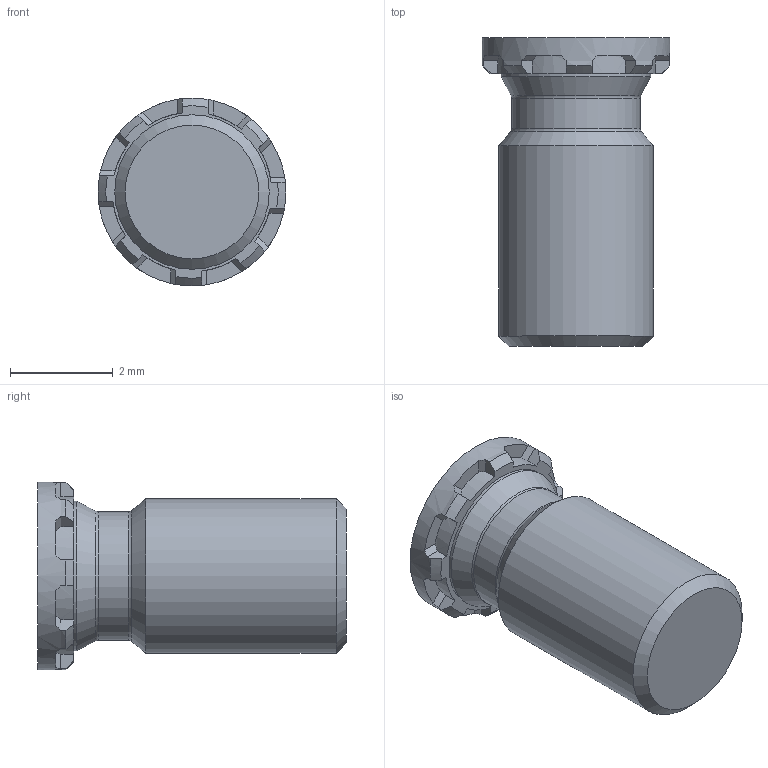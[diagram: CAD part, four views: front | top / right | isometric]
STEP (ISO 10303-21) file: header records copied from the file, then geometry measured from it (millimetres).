
FILE_DESCRIPTION(/* description */ (''),/* implementation_level */ '2;1');
FILE_NAME(/* name */ 'C:\Users\keval.kumar\Desktop\Fastit\Clinch Screw- Reduced FH Range\M3\Clinch Screw-Reduced FH Range_M3x6.stp',/* time_stamp */ '2024-03-12T12:54:33+05:00',/* author */ ('keval.kumar'),/* organization */ (''),/* preprocessor_version */ 'ST-DEVELOPER v18.1',/* originating_system */ 'Autodesk Inventor 2022',/* authorisation */ '');
FILE_SCHEMA (('AUTOMOTIVE_DESIGN { 1 0 10303 214 3 1 1 }'));
Length unit declared in the file: millimetre
Products named in the file (1): Clinch Screw-Reduced FH Range_M3x6
Bounding box: 3.65 x 6 x 3.65 mm (x, y, z)
Volume: 41.7 mm3; surface area: 77.9 mm2
Topology: 1 solids, 1 shells, 68 faces, 193 edges, 128 vertices
Faces by surface type: plane 43, cylinder 12, cone 11, torus 2
Full cylindrical faces by diameter (mm): 2.5 x1, 2.9 x1, 3 x1, 3.65 x1
Entity records: 2278 total; most frequent: CARTESIAN_POINT 422, DIRECTION 405, ORIENTED_EDGE 386, EDGE_CURVE 193, AXIS2_PLACEMENT_3D 159, VERTEX_POINT 128, LINE 87, VECTOR 87
